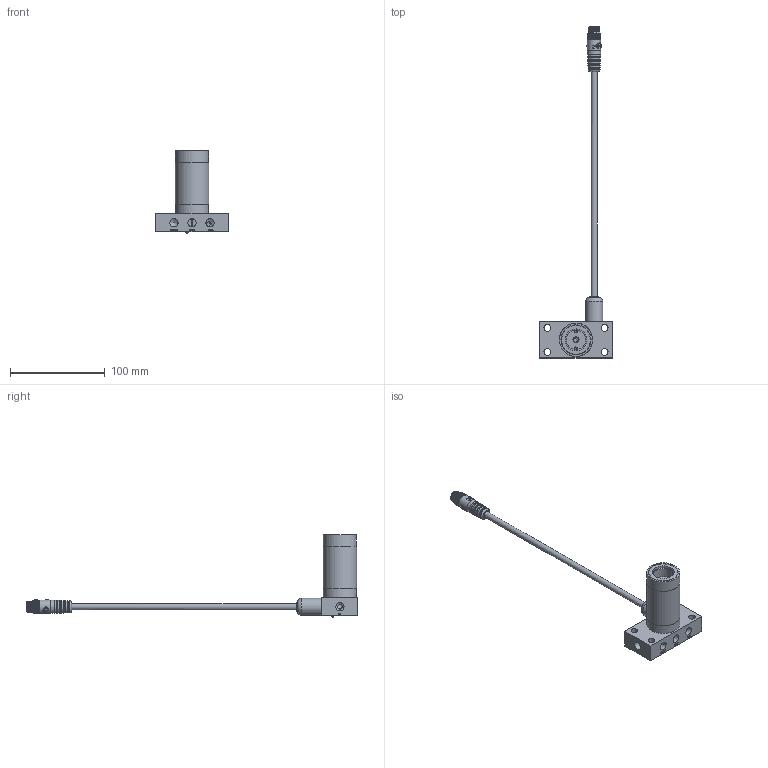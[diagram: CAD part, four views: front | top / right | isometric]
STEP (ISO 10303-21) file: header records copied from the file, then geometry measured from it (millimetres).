
FILE_DESCRIPTION(/* description */ ('ASSY,BODY,VF,IA,SXAR3,NHP_0002707223'),/* implementation_level */ '2;1');
FILE_NAME(/* name */ 'X:\ASSY,BODY,VF,IA,SXAR3,NHP_0002707223.stp',/* time_stamp */ '2021-07-07T14:01:40-04:00',/* author */ ('Simon.Britton'),/* organization */ (''),/* preprocessor_version */ 'ST-DEVELOPER v17',/* originating_system */ 'Autodesk Inventor 2019',/* authorisation */ '');
FILE_SCHEMA (('AUTOMOTIVE_DESIGN { 1 0 10303 214 3 1 1 }'));
Length unit declared in the file: centimetre
Products named in the file (1): ASSY,BODY,VF,IA,SXAR3,NHP
Bounding box: 76.2 x 349.85 x 87.37 mm (x, y, z)
Volume: 101052.4 mm3; surface area: 61824 mm2
Topology: 3 solids, 73 shells, 3971 faces, 9380 edges, 5612 vertices
Faces by surface type: bspline 2500, plane 709, cylinder 672, cone 50, torus 23, sphere 17
Full cylindrical faces by diameter (mm): 1 x5, 1.05 x5, 1.25 x10, 1.35 x5, 1.6 x10, 2 x1, 2.464 x2, 2.7 x1, 2.997 x8, 3 x1, 3.2 x1, 4.366 x1, 4.763 x12, 4.8 x3, 5.7 x1, 6.35 x3, 6.4 x1, 6.5 x1, 7 x1, 7.144 x4, 8.731 x8, 9.4 x1, 9.7 x2, 10.6 x2, 10.9 x1, 12 x4, 12.7 x1, 13.31 x1, 13.5 x1, 13.716 x1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
Entity records: 255747 total; most frequent: CARTESIAN_POINT 171028, ORIENTED_EDGE 18688, DIRECTION 13509, EDGE_CURVE 9344, AXIS2_PLACEMENT_3D 5750, VERTEX_POINT 5608, CIRCLE 4214, EDGE_LOOP 4139
